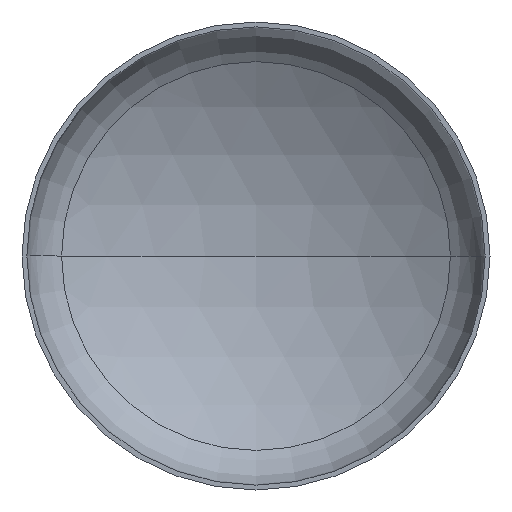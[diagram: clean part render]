
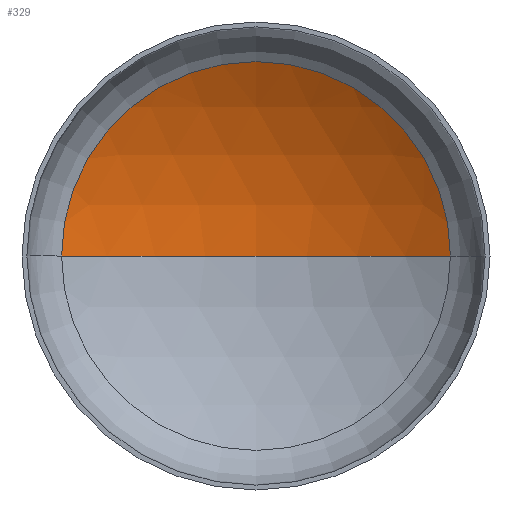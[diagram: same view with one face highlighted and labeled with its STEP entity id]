
A CAD part, front view. The second image highlights one B-rep face of the part: STEP entity #329.
In plain terms, the highlighted spherical face has radius 1920 mm.
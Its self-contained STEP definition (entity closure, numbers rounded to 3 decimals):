
#9 = AXIS2_PLACEMENT_3D ( 'NONE', #283, #185, #25 ) ;
#11 = AXIS2_PLACEMENT_3D ( 'NONE', #98, #306, #309 ) ;
#16 = AXIS2_PLACEMENT_3D ( 'NONE', #184, #26, #189 ) ;
#21 = EDGE_LOOP ( 'NONE', ( #168, #122, #160 ) ) ;
#25 = DIRECTION ( 'NONE',  ( -1., 0., 0. ) ) ;
#26 = DIRECTION ( 'NONE',  ( 0., 0., -1. ) ) ;
#54 = VERTEX_POINT ( 'NONE', #259 ) ;
#98 = CARTESIAN_POINT ( 'NONE',  ( 0., 391.187, 0. ) ) ;
#119 = VERTEX_POINT ( 'NONE', #324 ) ;
#122 = ORIENTED_EDGE ( 'NONE', *, *, #354, .T. ) ;
#148 = VERTEX_POINT ( 'NONE', #202 ) ;
#155 = DIRECTION ( 'NONE',  ( 0., 0., 1. ) ) ;
#160 = ORIENTED_EDGE ( 'NONE', *, *, #352, .T. ) ;
#168 = ORIENTED_EDGE ( 'NONE', *, *, #394, .F. ) ;
#184 = CARTESIAN_POINT ( 'NONE',  ( 0., -1249.566, 0. ) ) ;
#185 = DIRECTION ( 'NONE',  ( 0., 0., -1. ) ) ;
#189 = DIRECTION ( 'NONE',  ( -1., 0., 0. ) ) ;
#201 = SPHERICAL_SURFACE ( 'NONE', #16, 1920. ) ;
#202 = CARTESIAN_POINT ( 'NONE',  ( -997.161, 391.187, 0. ) ) ;
#237 = AXIS2_PLACEMENT_3D ( 'NONE', #314, #155, #336 ) ;
#257 = CIRCLE ( 'NONE', #11, 997.161 ) ;
#259 = CARTESIAN_POINT ( 'NONE',  ( 0., 670.434, 0. ) ) ;
#268 = FACE_OUTER_BOUND ( 'NONE', #21, .T. ) ;
#283 = CARTESIAN_POINT ( 'NONE',  ( 0., -1249.566, 0. ) ) ;
#306 = DIRECTION ( 'NONE',  ( 0., -1., 0. ) ) ;
#309 = DIRECTION ( 'NONE',  ( 1., 0., 0. ) ) ;
#310 = CIRCLE ( 'NONE', #9, 1920. ) ;
#314 = CARTESIAN_POINT ( 'NONE',  ( 0., -1249.566, 0. ) ) ;
#324 = CARTESIAN_POINT ( 'NONE',  ( 997.161, 391.187, 0. ) ) ;
#329 = ADVANCED_FACE ( 'NONE', ( #268 ), #201, .F. ) ;
#336 = DIRECTION ( 'NONE',  ( 1., 0., 0. ) ) ;
#352 = EDGE_CURVE ( 'NONE', #119, #148, #257, .T. ) ;
#354 = EDGE_CURVE ( 'NONE', #54, #119, #310, .T. ) ;
#394 = EDGE_CURVE ( 'NONE', #54, #148, #410, .T. ) ;
#410 = CIRCLE ( 'NONE', #237, 1920. ) ;
